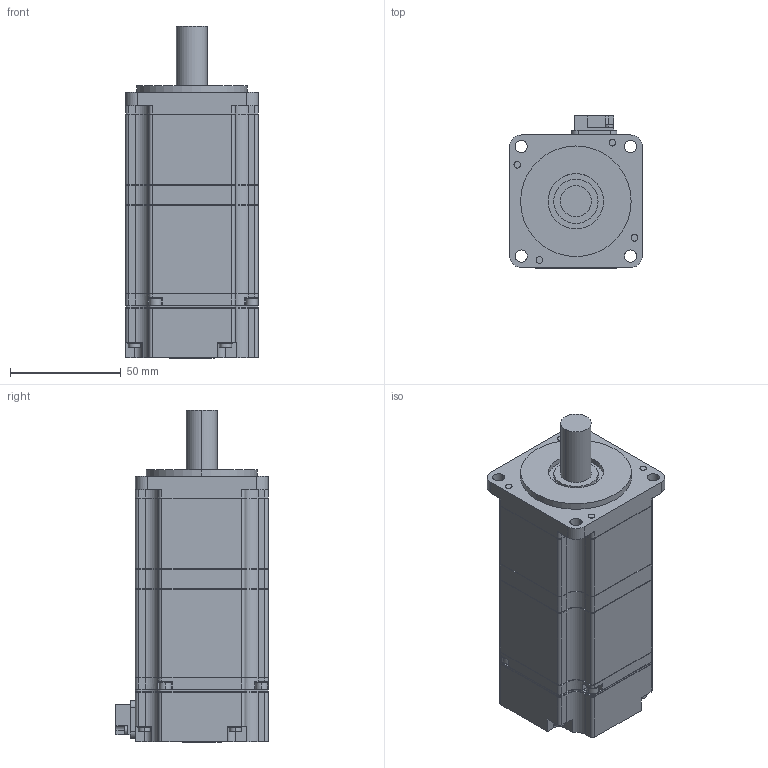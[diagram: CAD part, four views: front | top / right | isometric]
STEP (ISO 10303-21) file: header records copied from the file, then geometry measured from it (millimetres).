
FILE_DESCRIPTION (( 'STEP AP203' ), '1' );
FILE_NAME ('sgmjv_02a_a2c.STEP', '2008-12-26T02:51:11', ( 'T' ), ( 'T' ), 'SwSTEP 2.0', 'SolidWorks 2006052', '' );
FILE_SCHEMA (( 'CONFIG_CONTROL_DESIGN' ));
Length unit declared in the file: millimetre
Products named in the file (1): sgmjv_02a_a2c
Bounding box: 60.1 x 68.8 x 150.1 mm (x, y, z)
Volume: 392999.6 mm3; surface area: 40373.2 mm2
Topology: 1 solids, 1 shells, 535 faces, 1462 edges, 964 vertices
Faces by surface type: plane 293, cylinder 242
Entity records: 17151 total; most frequent: DIRECTION 3044, CARTESIAN_POINT 2972, ORIENTED_EDGE 2924, EDGE_CURVE 1462, AXIS2_PLACEMENT_3D 1048, VERTEX_POINT 964, VECTOR 948, LINE 948
